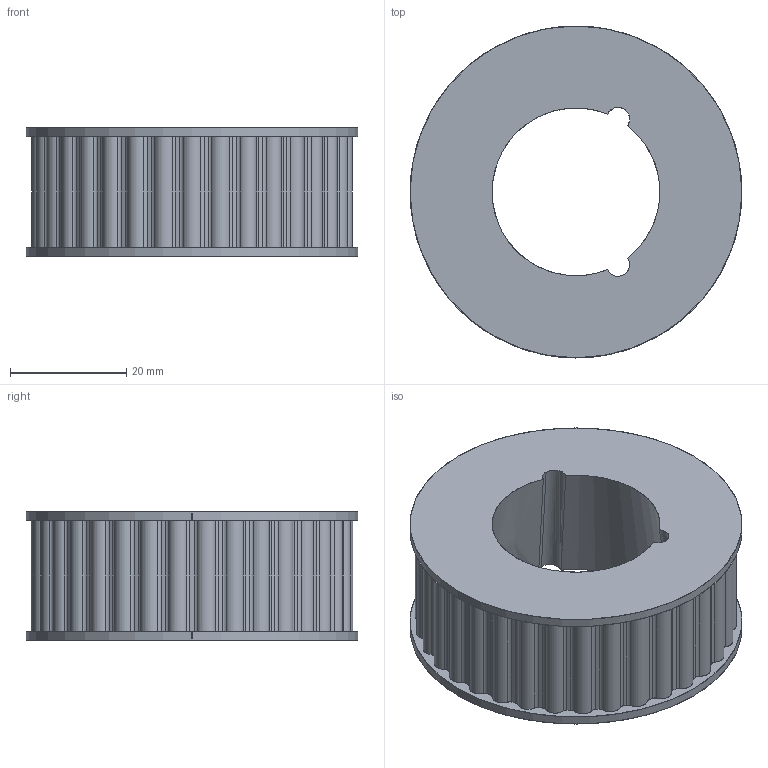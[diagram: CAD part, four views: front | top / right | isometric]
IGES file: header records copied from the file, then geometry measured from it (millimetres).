
Start section: SolidWorks IGES file using analytic representation for surfaces
Global section: file name: C:\Users\seb95\Mon projet\Technique\CAO\3D_import\Toothed_pulley_1008\Toothed_pulley_1008_34_teeth.IGS; native system: SolidWorks 2019; preprocessor: SolidWorks 2019; author: seb95; date: 230321.160136; units: millimetre
Bounding box: 57 x 57 x 22 mm (x, y, z)
Surface area: 10591.3 mm2 (no closed solid volume)
Topology: 0 solids, 0 shells, 179 faces, 2361 edges, 2359 vertices
Faces by surface type: revolution 175, bspline 4
